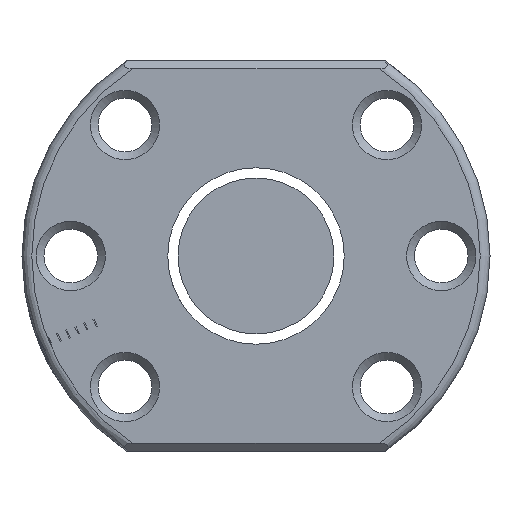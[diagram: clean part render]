
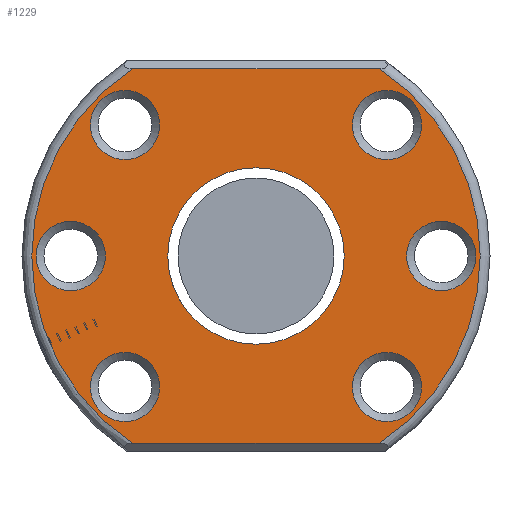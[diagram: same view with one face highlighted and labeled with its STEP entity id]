
A CAD part, left-side view. The second image highlights one B-rep face of the part: STEP entity #1229.
In plain terms, the highlighted planar face has unit normal (-1, 0, 0).
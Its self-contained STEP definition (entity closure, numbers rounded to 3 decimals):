
#19 = CARTESIAN_POINT ( 'NONE',  ( -45., -10.925, 10.925 ) ) ;
#32 = DIRECTION ( 'NONE',  ( 0., -0.707, -0.707 ) ) ;
#78 = DIRECTION ( 'NONE',  ( 0., -1., 0. ) ) ;
#100 = EDGE_LOOP ( 'NONE', ( #2604, #1905, #711, #2159 ) ) ;
#198 = VERTEX_POINT ( 'NONE', #487 ) ;
#212 = DIRECTION ( 'NONE',  ( 0., 0.707, 0.707 ) ) ;
#238 = FACE_BOUND ( 'NONE', #1103, .T. ) ;
#261 = CARTESIAN_POINT ( 'NONE',  ( -45., -12.663, 19.2 ) ) ;
#300 = FACE_BOUND ( 'NONE', #2280, .T. ) ;
#305 = CARTESIAN_POINT ( 'NONE',  ( -45., 10.925, -10.925 ) ) ;
#314 = ORIENTED_EDGE ( 'NONE', *, *, #3126, .T. ) ;
#368 = CARTESIAN_POINT ( 'NONE',  ( -45., -12.663, -19.2 ) ) ;
#375 = VECTOR ( 'NONE', #3124, 1000. ) ;
#413 = DIRECTION ( 'NONE',  ( 1., 0., 0. ) ) ;
#424 = AXIS2_PLACEMENT_3D ( 'NONE', #2785, #549, #78 ) ;
#459 = ORIENTED_EDGE ( 'NONE', *, *, #1450, .T. ) ;
#470 = EDGE_LOOP ( 'NONE', ( #314 ) ) ;
#480 = FACE_BOUND ( 'NONE', #610, .T. ) ;
#487 = CARTESIAN_POINT ( 'NONE',  ( -45., -15.45, 0. ) ) ;
#549 = DIRECTION ( 'NONE',  ( -1., 0., 0. ) ) ;
#553 = CARTESIAN_POINT ( 'NONE',  ( -45., 13.435, 13.435 ) ) ;
#610 = EDGE_LOOP ( 'NONE', ( #2535 ) ) ;
#612 = CARTESIAN_POINT ( 'NONE',  ( -45., 19., 0. ) ) ;
#642 = DIRECTION ( 'NONE',  ( 0., 1., 0. ) ) ;
#711 = ORIENTED_EDGE ( 'NONE', *, *, #1606, .T. ) ;
#761 = DIRECTION ( 'NONE',  ( 0., -1., 0. ) ) ;
#786 = CARTESIAN_POINT ( 'NONE',  ( -45., 0., 0. ) ) ;
#835 = AXIS2_PLACEMENT_3D ( 'NONE', #1119, #413, #642 ) ;
#839 = AXIS2_PLACEMENT_3D ( 'NONE', #1759, #3038, #2758 ) ;
#938 = CIRCLE ( 'NONE', #2718, 3.55 ) ;
#979 = CARTESIAN_POINT ( 'NONE',  ( -45., 9.05, 0. ) ) ;
#1021 = VERTEX_POINT ( 'NONE', #1993 ) ;
#1022 = ORIENTED_EDGE ( 'NONE', *, *, #2766, .T. ) ;
#1033 = AXIS2_PLACEMENT_3D ( 'NONE', #1205, #1703, #2705 ) ;
#1103 = EDGE_LOOP ( 'NONE', ( #1177 ) ) ;
#1119 = CARTESIAN_POINT ( 'NONE',  ( -45., -19., 0. ) ) ;
#1145 = VECTOR ( 'NONE', #761, 1000. ) ;
#1177 = ORIENTED_EDGE ( 'NONE', *, *, #1296, .T. ) ;
#1205 = CARTESIAN_POINT ( 'NONE',  ( -45., 13.435, -13.435 ) ) ;
#1209 = FACE_BOUND ( 'NONE', #2314, .T. ) ;
#1229 = ADVANCED_FACE ( 'NONE', ( #1209, #2914, #1680, #2663, #480, #238, #1939, #300 ), #3028, .T. ) ;
#1262 = ORIENTED_EDGE ( 'NONE', *, *, #1463, .T. ) ;
#1277 = VERTEX_POINT ( 'NONE', #368 ) ;
#1296 = EDGE_CURVE ( 'NONE', #1700, #1700, #1345, .T. ) ;
#1345 = CIRCLE ( 'NONE', #2461, 3.55 ) ;
#1406 = LINE ( 'NONE', #2191, #375 ) ;
#1413 = CARTESIAN_POINT ( 'NONE',  ( -45., 15.45, 0. ) ) ;
#1450 = EDGE_CURVE ( 'NONE', #198, #198, #2201, .T. ) ;
#1454 = VERTEX_POINT ( 'NONE', #979 ) ;
#1463 = EDGE_CURVE ( 'NONE', #1454, #1454, #2316, .T. ) ;
#1516 = CARTESIAN_POINT ( 'NONE',  ( -45., 10.925, 10.925 ) ) ;
#1532 = ORIENTED_EDGE ( 'NONE', *, *, #1547, .T. ) ;
#1545 = CIRCLE ( 'NONE', #2783, 3.55 ) ;
#1547 = EDGE_CURVE ( 'NONE', #2431, #2431, #938, .T. ) ;
#1561 = CARTESIAN_POINT ( 'NONE',  ( -45., 0., 0. ) ) ;
#1576 = DIRECTION ( 'NONE',  ( 0., -1., 0. ) ) ;
#1606 = EDGE_CURVE ( 'NONE', #2907, #2687, #1406, .T. ) ;
#1608 = DIRECTION ( 'NONE',  ( 0., 1., 0. ) ) ;
#1677 = DIRECTION ( 'NONE',  ( 0., 0.707, -0.707 ) ) ;
#1680 = FACE_BOUND ( 'NONE', #2243, .T. ) ;
#1689 = CIRCLE ( 'NONE', #2721, 23. ) ;
#1700 = VERTEX_POINT ( 'NONE', #1413 ) ;
#1703 = DIRECTION ( 'NONE',  ( 1., 0., 0. ) ) ;
#1759 = CARTESIAN_POINT ( 'NONE',  ( -45., 0., 0. ) ) ;
#1800 = CIRCLE ( 'NONE', #839, 23. ) ;
#1905 = ORIENTED_EDGE ( 'NONE', *, *, #2427, .T. ) ;
#1939 = FACE_OUTER_BOUND ( 'NONE', #100, .T. ) ;
#1954 = CIRCLE ( 'NONE', #2786, 3.55 ) ;
#1963 = DIRECTION ( 'NONE',  ( 0., -1., 0. ) ) ;
#1993 = CARTESIAN_POINT ( 'NONE',  ( -45., -10.925, -10.925 ) ) ;
#2014 = EDGE_CURVE ( 'NONE', #2968, #1277, #2513, .T. ) ;
#2139 = DIRECTION ( 'NONE',  ( 1., 0., 0. ) ) ;
#2159 = ORIENTED_EDGE ( 'NONE', *, *, #2944, .T. ) ;
#2185 = EDGE_LOOP ( 'NONE', ( #1532 ) ) ;
#2191 = CARTESIAN_POINT ( 'NONE',  ( -45., 13.266, 19.2 ) ) ;
#2201 = CIRCLE ( 'NONE', #835, 3.55 ) ;
#2243 = EDGE_LOOP ( 'NONE', ( #459 ) ) ;
#2280 = EDGE_LOOP ( 'NONE', ( #1262 ) ) ;
#2287 = VERTEX_POINT ( 'NONE', #305 ) ;
#2314 = EDGE_LOOP ( 'NONE', ( #1022 ) ) ;
#2316 = CIRCLE ( 'NONE', #2620, 9.05 ) ;
#2334 = DIRECTION ( 'NONE',  ( 1., 0., 0. ) ) ;
#2356 = CARTESIAN_POINT ( 'NONE',  ( -45., 12.663, -19.2 ) ) ;
#2409 = EDGE_CURVE ( 'NONE', #2997, #2997, #1545, .T. ) ;
#2417 = CIRCLE ( 'NONE', #1033, 3.55 ) ;
#2423 = DIRECTION ( 'NONE',  ( 1., 0., 0. ) ) ;
#2427 = EDGE_CURVE ( 'NONE', #1277, #2907, #1689, .T. ) ;
#2431 = VERTEX_POINT ( 'NONE', #19 ) ;
#2461 = AXIS2_PLACEMENT_3D ( 'NONE', #612, #2334, #1576 ) ;
#2481 = CARTESIAN_POINT ( 'NONE',  ( -45., 12.663, 19.2 ) ) ;
#2513 = LINE ( 'NONE', #2760, #1145 ) ;
#2535 = ORIENTED_EDGE ( 'NONE', *, *, #2409, .T. ) ;
#2604 = ORIENTED_EDGE ( 'NONE', *, *, #2014, .T. ) ;
#2620 = AXIS2_PLACEMENT_3D ( 'NONE', #1561, #3093, #1608 ) ;
#2663 = FACE_BOUND ( 'NONE', #2185, .T. ) ;
#2687 = VERTEX_POINT ( 'NONE', #2481 ) ;
#2705 = DIRECTION ( 'NONE',  ( 0., -0.707, 0.707 ) ) ;
#2716 = DIRECTION ( 'NONE',  ( -1., 0., 0. ) ) ;
#2718 = AXIS2_PLACEMENT_3D ( 'NONE', #2853, #2423, #1677 ) ;
#2721 = AXIS2_PLACEMENT_3D ( 'NONE', #786, #2716, #1963 ) ;
#2758 = DIRECTION ( 'NONE',  ( 0., -1., 0. ) ) ;
#2760 = CARTESIAN_POINT ( 'NONE',  ( -45., -13.266, -19.2 ) ) ;
#2766 = EDGE_CURVE ( 'NONE', #2287, #2287, #2417, .T. ) ;
#2783 = AXIS2_PLACEMENT_3D ( 'NONE', #553, #2952, #32 ) ;
#2785 = CARTESIAN_POINT ( 'NONE',  ( -45., 24., 0. ) ) ;
#2786 = AXIS2_PLACEMENT_3D ( 'NONE', #2920, #2139, #212 ) ;
#2853 = CARTESIAN_POINT ( 'NONE',  ( -45., -13.435, 13.435 ) ) ;
#2907 = VERTEX_POINT ( 'NONE', #261 ) ;
#2914 = FACE_BOUND ( 'NONE', #470, .T. ) ;
#2920 = CARTESIAN_POINT ( 'NONE',  ( -45., -13.435, -13.435 ) ) ;
#2944 = EDGE_CURVE ( 'NONE', #2687, #2968, #1800, .T. ) ;
#2952 = DIRECTION ( 'NONE',  ( 1., 0., 0. ) ) ;
#2968 = VERTEX_POINT ( 'NONE', #2356 ) ;
#2997 = VERTEX_POINT ( 'NONE', #1516 ) ;
#3028 = PLANE ( 'NONE',  #424 ) ;
#3038 = DIRECTION ( 'NONE',  ( -1., 0., 0. ) ) ;
#3093 = DIRECTION ( 'NONE',  ( 1., 0., 0. ) ) ;
#3124 = DIRECTION ( 'NONE',  ( 0., 1., 0. ) ) ;
#3126 = EDGE_CURVE ( 'NONE', #1021, #1021, #1954, .T. ) ;
